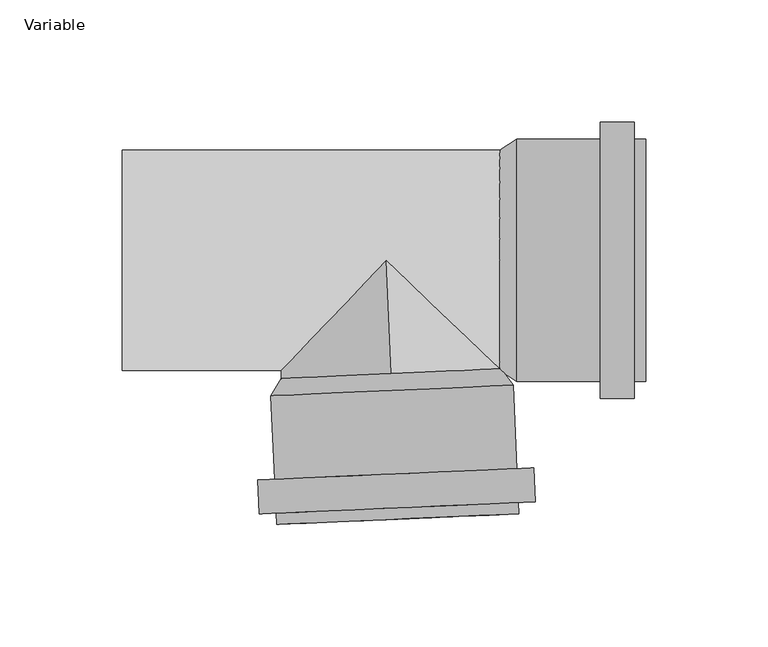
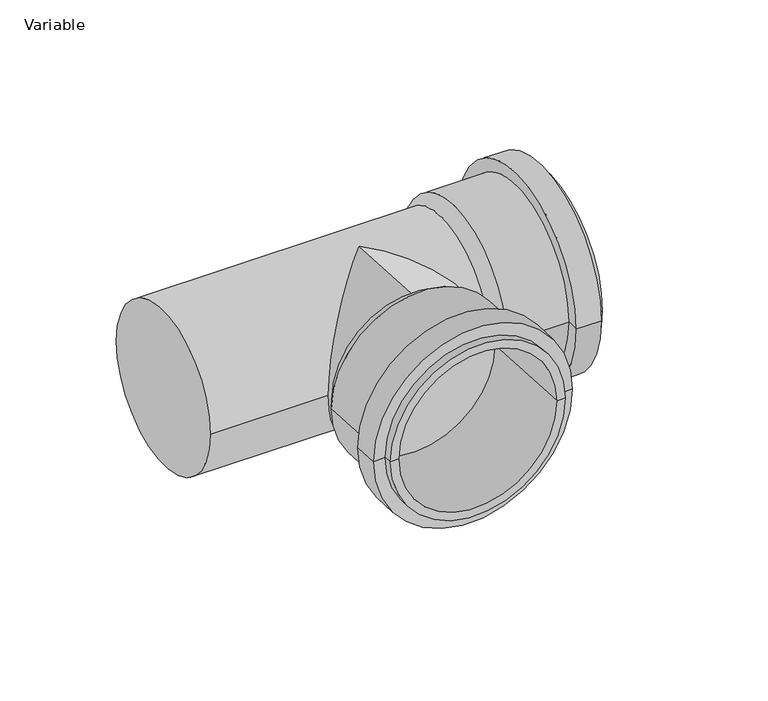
"""IFC4 building model written with IfcOpenShell, lengths in millimetres: pipe fitting geometry, AliaxisFR_Friaphon_Branch_FR : Variable."""

from ifc_helpers import new_model, si_unit, frame, origin, place, context, project, spatial, polyline, circle_curve, ellipse_curve, source, transform, mapped, element, save
from ifc_brep_helpers import plane_surface, cylinder_surface, revolved_surface, advanced_brep


def variable_7b3f4d0f(model_context):
    return source(origin(), model_context, "Body", "AdvancedBrep", [
        advanced_brep(
        [(-44.9291367, -108.0626331, 0.0), (54.1764469, -103.7355899, 0.0), (49.580825, -103.9362391, 0.0), (-40.3335149, -107.8619839, 0.0), (-52.6295281, -89.8812148, 0.0), (60.2629209, -84.952224, 0.0), (60.8692304, -98.8389943, 0.0), (-52.0232186, -103.7679851, 0.0), (-45.7360954, -89.580241, 0.0), (53.3694882, -85.2531978, 0.0), (-47.2278784, -55.4127918, 0.0), (51.8777051, -51.0857486, 0.0), (46.9811095, -44.392965, 0.0), (-42.9332304, -48.3187099, 0.0), (-45.1297859, -103.4670113, 0.0), (53.9757977, -99.1399681, 0.0)],
        [
            (0, 1, circle_curve(frame((4.6236551, -105.8991115, 0.0), z_axis=(0.04361938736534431, -0.9990482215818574, 0.0), x_axis=(0.9990482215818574, 0.04361938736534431, 0.0)), 49.6)),
            (1, 2),
            (2, 3, circle_curve(frame((4.6236551, -105.8991115, 0.0), z_axis=(-0.04361938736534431, 0.9990482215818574, 0.0), x_axis=(0.9990482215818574, 0.04361938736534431, 0.0)), 45.0)),
            (3, 0),
            (1, 0, circle_curve(frame((4.6236551, -105.8991115, 0.0), z_axis=(0.04361938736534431, -0.9990482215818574, 0.0), x_axis=(0.9990482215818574, 0.04361938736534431, 0.0)), 49.6)),
            (3, 2, circle_curve(frame((4.6236551, -105.8991115, 0.0), z_axis=(-0.04361938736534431, 0.9990482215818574, 0.0), x_axis=(0.9990482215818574, 0.04361938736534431, 0.0)), 45.0)),
            (4, 5, circle_curve(frame((3.8166964, -87.4167194, 0.0), z_axis=(0.04361938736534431, -0.9990482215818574, 0.0), x_axis=(0.9990482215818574, 0.04361938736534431, 0.0)), 56.5)),
            (5, 6),
            (6, 7, circle_curve(frame((4.4230059, -101.3034897, 0.0), z_axis=(-0.04361938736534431, 0.9990482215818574, 0.0), x_axis=(0.9990482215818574, 0.04361938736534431, 0.0)), 56.5)),
            (7, 4),
            (5, 4, circle_curve(frame((3.8166964, -87.4167194, 0.0), z_axis=(0.04361938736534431, -0.9990482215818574, 0.0), x_axis=(0.9990482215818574, 0.04361938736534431, 0.0)), 56.5)),
            (7, 6, circle_curve(frame((4.4230059, -101.3034897, 0.0), z_axis=(-0.04361938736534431, 0.9990482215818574, 0.0), x_axis=(0.9990482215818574, 0.04361938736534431, 0.0)), 56.5)),
            (8, 9, circle_curve(frame((3.8166964, -87.4167194, 0.0), z_axis=(0.04361938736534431, -0.9990482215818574, 0.0), x_axis=(0.9990482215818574, 0.04361938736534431, 0.0)), 49.6)),
            (9, 5),
            (4, 8),
            (9, 8, circle_curve(frame((3.8166964, -87.4167194, 0.0), z_axis=(0.04361938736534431, -0.9990482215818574, 0.0), x_axis=(0.9990482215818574, 0.04361938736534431, 0.0)), 49.6)),
            (10, 11, circle_curve(frame((2.3249133, -53.2492702, 0.0), z_axis=(0.04361938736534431, -0.9990482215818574, 0.0), x_axis=(0.9990482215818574, 0.04361938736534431, 0.0)), 49.6)),
            (11, 9),
            (8, 10),
            (11, 10, circle_curve(frame((2.3249133, -53.2492702, 0.0), z_axis=(0.04361938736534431, -0.9990482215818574, 0.0), x_axis=(0.9990482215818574, 0.04361938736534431, 0.0)), 49.6)),
            (2, 12),
            (12, 13, circle_curve(frame((2.0239396, -46.3558375, 0.0), z_axis=(-0.04361938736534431, 0.9990482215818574, 0.0), x_axis=(0.9990482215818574, 0.04361938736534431, 0.0)), 45.0)),
            (13, 3),
            (13, 12, circle_curve(frame((2.0239396, -46.3558375, 0.0), z_axis=(-0.04361938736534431, 0.9990482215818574, 0.0), x_axis=(0.9990482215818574, 0.04361938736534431, 0.0)), 45.0)),
            (12, 11),
            (10, 13),
            (14, 15, circle_curve(frame((4.4230059, -101.3034897, 0.0), z_axis=(0.04361938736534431, -0.9990482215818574, 0.0), x_axis=(0.9990482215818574, 0.04361938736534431, 0.0)), 49.6)),
            (15, 1),
            (0, 14),
            (15, 14, circle_curve(frame((4.4230059, -101.3034897, 0.0), z_axis=(0.04361938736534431, -0.9990482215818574, 0.0), x_axis=(0.9990482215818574, 0.04361938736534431, 0.0)), 49.6)),
            (6, 15),
            (14, 7),
        ],
        [
            plane_surface(frame((4.6236551, -105.8991115, 0.0), z_axis=(0.04361938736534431, -0.9990482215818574, 0.0), x_axis=(0.9990482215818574, 0.04361938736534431, 0.0))),
            cylinder_surface(frame((2.0239396, -46.3558375, 0.0), z_axis=(-0.04361938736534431, 0.9990482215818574, 0.0), x_axis=(0.9990482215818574, 0.04361938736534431, 0.0)), 56.5),
            plane_surface(frame((3.8166964, -87.4167194, 0.0), z_axis=(-0.04361938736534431, 0.9990482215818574, 0.0), x_axis=(0.9990482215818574, 0.04361938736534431, 0.0))),
            cylinder_surface(frame((2.0239396, -46.3558375, 0.0), z_axis=(-0.04361938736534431, 0.9990482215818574, 0.0), x_axis=(0.9990482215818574, 0.04361938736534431, 0.0)), 49.6),
            revolved_surface(polyline([(46.98110956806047, -44.392964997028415, 0.0), (49.58082505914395, -103.93623909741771, 0.0)]), (2.0239396, -46.3558375, 0.0), (-0.04361938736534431, 0.9990482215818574, 0.0)),
            revolved_surface(polyline([(51.8777051, -51.0857486, 0.0), (46.9811095, -44.392965, 0.0)]), (2.0239396, -46.3558375, 0.0), (-0.04361938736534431, 0.9990482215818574, 0.0)),
            plane_surface(frame((4.4230059, -101.3034897, 0.0), z_axis=(0.04361938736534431, -0.9990482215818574, 0.0), x_axis=(0.9990482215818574, 0.04361938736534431, 0.0))),
        ],
        [
            (0, [[1, 2, 3, 4]]),
            (0, [[5, -4, 6, -2]]),
            (1, [[7, 8, 9, 10]]),
            (1, [[11, -10, 12, -8]]),
            (2, [[13, 14, -7, 15]]),
            (2, [[16, -15, -11, -14]]),
            (3, [[17, 18, -13, 19]]),
            (3, [[20, -19, -16, -18]]),
            (4, [[-3, 21, 22, 23]]),
            (4, [[-6, -23, 24, -21]]),
            (5, [[-22, 25, -17, 26]]),
            (5, [[-24, -26, -20, -25]]),
            (3, [[27, 28, -1, 29]]),
            (3, [[30, -29, -5, -28]]),
            (6, [[-9, 31, -27, 32]]),
            (6, [[-12, -32, -30, -31]]),
        ],
    ),
        advanced_brep(
        [(106.0, -49.6, 0.0), (106.0, 49.6, 0.0), (106.0, 45.0, 0.0), (106.0, -45.0, 0.0), (87.5, -56.5, 0.0), (87.5, 56.5, 0.0), (101.4, 56.5, 0.0), (101.4, -56.5, 0.0), (87.5, -49.6, 0.0), (87.5, 49.6, 0.0), (53.3, -49.6, 0.0), (53.3, 49.6, 0.0), (46.4, 45.0, 0.0), (46.4, -45.0, 0.0), (101.4, -49.6, 0.0), (101.4, 49.6, 0.0)],
        [
            (0, 1, circle_curve(frame((106.0, 0.0, 0.0), z_axis=(1.0, 0.0, 0.0), x_axis=(0.0, 1.0, 0.0)), 49.6)),
            (1, 2),
            (2, 3, circle_curve(frame((106.0, 0.0, 0.0), z_axis=(-1.0, 0.0, 0.0), x_axis=(0.0, 1.0, 0.0)), 45.0)),
            (3, 0),
            (1, 0, circle_curve(frame((106.0, 0.0, 0.0), z_axis=(1.0, 0.0, 0.0), x_axis=(0.0, 1.0, 0.0)), 49.6)),
            (3, 2, circle_curve(frame((106.0, 0.0, 0.0), z_axis=(-1.0, 0.0, 0.0), x_axis=(0.0, 1.0, 0.0)), 45.0)),
            (4, 5, circle_curve(frame((87.5, 0.0, 0.0), z_axis=(1.0, 0.0, 0.0), x_axis=(0.0, 1.0, 0.0)), 56.5)),
            (5, 6),
            (6, 7, circle_curve(frame((101.4, 0.0, 0.0), z_axis=(-1.0, 0.0, 0.0), x_axis=(0.0, 1.0, 0.0)), 56.5)),
            (7, 4),
            (5, 4, circle_curve(frame((87.5, 0.0, 0.0), z_axis=(1.0, 0.0, 0.0), x_axis=(0.0, 1.0, 0.0)), 56.5)),
            (7, 6, circle_curve(frame((101.4, 0.0, 0.0), z_axis=(-1.0, 0.0, 0.0), x_axis=(0.0, 1.0, 0.0)), 56.5)),
            (8, 9, circle_curve(frame((87.5, 0.0, 0.0), z_axis=(1.0, 0.0, 0.0), x_axis=(0.0, 1.0, 0.0)), 49.6)),
            (9, 5),
            (4, 8),
            (9, 8, circle_curve(frame((87.5, 0.0, 0.0), z_axis=(1.0, 0.0, 0.0), x_axis=(0.0, 1.0, 0.0)), 49.6)),
            (10, 11, circle_curve(frame((53.3, 0.0, 0.0), z_axis=(1.0, 0.0, 0.0), x_axis=(0.0, 1.0, 0.0)), 49.6)),
            (11, 9),
            (8, 10),
            (11, 10, circle_curve(frame((53.3, 0.0, 0.0), z_axis=(1.0, 0.0, 0.0), x_axis=(0.0, 1.0, 0.0)), 49.6)),
            (2, 12),
            (12, 13, circle_curve(frame((46.4, 0.0, 0.0), z_axis=(-1.0, 0.0, 0.0), x_axis=(0.0, 1.0, 0.0)), 45.0)),
            (13, 3),
            (13, 12, circle_curve(frame((46.4, 0.0, 0.0), z_axis=(-1.0, 0.0, 0.0), x_axis=(0.0, 1.0, 0.0)), 45.0)),
            (12, 11),
            (10, 13),
            (14, 15, circle_curve(frame((101.4, 0.0, 0.0), z_axis=(1.0, 0.0, 0.0), x_axis=(0.0, 1.0, 0.0)), 49.6)),
            (15, 1),
            (0, 14),
            (15, 14, circle_curve(frame((101.4, 0.0, 0.0), z_axis=(1.0, 0.0, 0.0), x_axis=(0.0, 1.0, 0.0)), 49.6)),
            (6, 15),
            (14, 7),
        ],
        [
            plane_surface(frame((106.0, 0.0, 0.0), z_axis=(1.0, 0.0, 0.0), x_axis=(0.0, 1.0, 0.0))),
            cylinder_surface(frame((46.4, 0.0, 0.0), z_axis=(-1.0, 0.0, 0.0), x_axis=(0.0, 1.0, 0.0)), 56.5),
            plane_surface(frame((87.5, 0.0, 0.0), z_axis=(-1.0, 0.0, 0.0), x_axis=(0.0, 1.0, 0.0))),
            cylinder_surface(frame((46.4, 0.0, 0.0), z_axis=(-1.0, 0.0, 0.0), x_axis=(0.0, 1.0, 0.0)), 49.6),
            revolved_surface(polyline([(46.4, 45.0, 0.0), (106.0, 45.0, 0.0)]), (46.4, 0.0, 0.0), (-1.0, 0.0, 0.0)),
            revolved_surface(polyline([(53.3, 49.6, 0.0), (46.4, 45.0, 0.0)]), (46.4, 0.0, 0.0), (-1.0, 0.0, 0.0)),
            plane_surface(frame((101.4, 0.0, 0.0), z_axis=(1.0, 0.0, 0.0), x_axis=(0.0, 1.0, 0.0))),
        ],
        [
            (0, [[1, 2, 3, 4]]),
            (0, [[5, -4, 6, -2]]),
            (1, [[7, 8, 9, 10]]),
            (1, [[11, -10, 12, -8]]),
            (2, [[13, 14, -7, 15]]),
            (2, [[16, -15, -11, -14]]),
            (3, [[17, 18, -13, 19]]),
            (3, [[20, -19, -16, -18]]),
            (4, [[-3, 21, 22, 23]]),
            (4, [[-6, -23, 24, -21]]),
            (5, [[-22, 25, -17, 26]]),
            (5, [[-24, -26, -20, -25]]),
            (3, [[27, 28, -1, 29]]),
            (3, [[30, -29, -5, -28]]),
            (6, [[-9, 31, -27, 32]]),
            (6, [[-12, -32, -30, -31]]),
        ],
    ),
        advanced_brep(
        [(51.0, -45.0, 0.0), (51.0, 45.0, 0.0), (-108.0, -45.0, 0.0), (-108.0, 45.0, 0.0), (47.0076133, -45.0, 0.0), (0.0, 0.0, -45.0), (-43.0781284, -45.0, 0.0), (0.0, 0.0, 45.0), (2.2245888, -50.9514593, -45.0), (2.2245888, -50.9514593, 45.0)],
        [
            (0, 1, circle_curve(frame((51.0, 0.0, 0.0), z_axis=(1.0, 0.0, 0.0), x_axis=(0.0, 1.0, 0.0)), 45.0)),
            (1, 0, circle_curve(frame((51.0, 0.0, 0.0), z_axis=(1.0, 0.0, 0.0), x_axis=(0.0, 1.0, 0.0)), 45.0)),
            (2, 3, circle_curve(frame((-108.0, 0.0, 0.0), z_axis=(-1.0, 0.0, 0.0), x_axis=(0.0, 1.0, 0.0)), 45.0)),
            (3, 2, circle_curve(frame((-108.0, 0.0, 0.0), z_axis=(-1.0, 0.0, 0.0), x_axis=(0.0, 1.0, 0.0)), 45.0)),
            (0, 4),
            (4, 5, ellipse_curve(frame((0.0, 0.0, 0.0), z_axis=(0.6915130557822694, 0.7223639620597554, 0.0), x_axis=(0.7223639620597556, -0.6915130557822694, 0.0)), 65.0746933, 45.0)),
            (5, 6, ellipse_curve(frame((0.0, 0.0, 0.0), z_axis=(-0.7223639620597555, 0.6915130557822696, 0.0), x_axis=(0.6915130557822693, 0.7223639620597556, 0.0)), 62.2954665, 45.0)),
            (6, 2),
            (3, 1),
            (6, 7, ellipse_curve(frame((0.0, 0.0, 0.0), z_axis=(-0.7223639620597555, 0.6915130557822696, 0.0), x_axis=(0.6915130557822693, 0.7223639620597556, 0.0)), 62.2954665, 45.0)),
            (7, 4, ellipse_curve(frame((0.0, 0.0, 0.0), z_axis=(0.6915130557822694, 0.7223639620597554, 0.0), x_axis=(0.7223639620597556, -0.6915130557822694, 0.0)), 65.0746933, 45.0)),
            (8, 9, circle_curve(frame((2.2245888, -50.9514593, 0.0), z_axis=(0.043619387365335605, -0.9990482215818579, 0.0), x_axis=(0.0, 0.0, 1.0)), 45.0)),
            (9, 8, circle_curve(frame((2.2245888, -50.9514593, 0.0), z_axis=(0.043619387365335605, -0.9990482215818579, 0.0), x_axis=(0.0, 0.0, 1.0)), 45.0)),
            (8, 5),
            (7, 9),
        ],
        [
            plane_surface(frame((51.0, 45.0, 0.0), z_axis=(1.0, 0.0, 0.0), x_axis=(0.0, 0.0, 1.0))),
            plane_surface(frame((-108.0, 45.0, 0.0), z_axis=(-1.0, 0.0, 0.0), x_axis=(0.0, 0.0, -1.0))),
            cylinder_surface(frame((-108.0, 0.0, 0.0), z_axis=(1.0, 0.0, 0.0), x_axis=(0.0, 1.0, 0.0)), 45.0),
            plane_surface(frame((2.2245888, -50.9514593, 45.0), z_axis=(0.04361938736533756, -0.9990482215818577, 0.0), x_axis=(-0.9990482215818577, -0.04361938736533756, 0.0))),
            cylinder_surface(frame((2.2245888, -50.9514593, 0.0), z_axis=(-0.043619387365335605, 0.9990482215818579, 0.0), x_axis=(0.0, 0.0, 1.0)), 45.0),
        ],
        [
            (0, [[1, 2]]),
            (1, [[3, 4]]),
            (2, [[-1, 5, 6, 7, 8, -4, 9]]),
            (2, [[-2, -9, -3, -8, 10, 11, -5]]),
            (3, [[12, 13]]),
            (4, [[-12, 14, -6, -11, 15]]),
            (4, [[-13, -15, -10, -7, -14]]),
        ],
    ),
    ])


if __name__ == "__main__":
    model = new_model("IFC4")
    model_context = context("Model", 3, world=origin())
    ifc_project = project(units=[si_unit("LENGTHUNIT", "METRE", prefix="MILLI")], contexts=[model_context])
    site = spatial("IfcSite", under=ifc_project)
    building = spatial("IfcBuilding", under=site)
    placement = place(None, origin())
    variable_shape = variable_7b3f4d0f(model_context)
    element("IfcPipeFitting", 1, ObjectType="AliaxisFR_Friaphon_Branch_FR : Variable", at=placement, inside=building, context=model_context, shape_type="MappedRepresentation", body=[
        mapped(variable_shape, transform((0.0, 0.0, 0.0), x_axis=(1.0, 0.0, 0.0), y_axis=(0.0, 1.0, 0.0), z_axis=(0.0, 0.0, 1.0))),
    ])
    save(model, "model.ifc")
